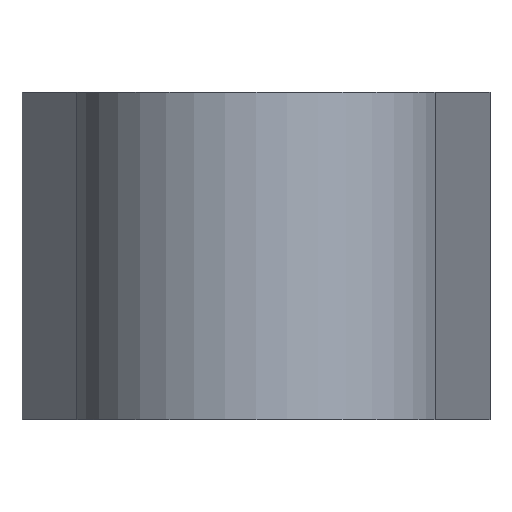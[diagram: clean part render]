
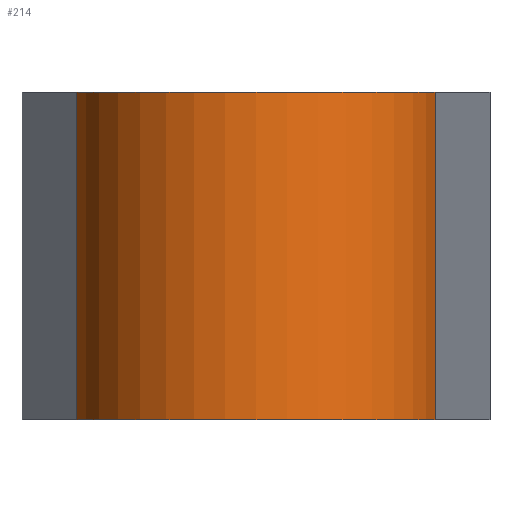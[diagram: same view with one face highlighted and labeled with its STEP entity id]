
A CAD part, left-side view. The second image highlights one B-rep face of the part: STEP entity #214.
In plain terms, the highlighted cylindrical face has radius 19.5 mm (diameter 39 mm), a partial arc.
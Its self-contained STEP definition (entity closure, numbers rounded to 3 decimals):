
#127=CYLINDRICAL_SURFACE('',#826,19.5);
#156=CIRCLE('',#824,19.5);
#157=CIRCLE('',#825,19.5);
#214=ADVANCED_FACE('',(#271),#127,.T.);
#271=FACE_OUTER_BOUND('',#305,.T.);
#305=EDGE_LOOP('',(#383,#384,#385,#386));
#383=ORIENTED_EDGE('',*,*,#644,.T.);
#384=ORIENTED_EDGE('',*,*,#645,.F.);
#385=ORIENTED_EDGE('',*,*,#641,.F.);
#386=ORIENTED_EDGE('',*,*,#646,.T.);
#571=VERTEX_POINT('',#1192);
#572=VERTEX_POINT('',#1193);
#573=VERTEX_POINT('',#1198);
#574=VERTEX_POINT('',#1199);
#641=EDGE_CURVE('',#571,#572,#737,.T.);
#644=EDGE_CURVE('',#573,#574,#740,.T.);
#645=EDGE_CURVE('',#572,#574,#156,.T.);
#646=EDGE_CURVE('',#571,#573,#157,.T.);
#737=LINE('',#1191,#781);
#740=LINE('',#1197,#784);
#781=VECTOR('',#945,1.);
#784=VECTOR('',#950,1.);
#824=AXIS2_PLACEMENT_3D('',#1200,#951,#952);
#825=AXIS2_PLACEMENT_3D('',#1201,#953,#954);
#826=AXIS2_PLACEMENT_3D('',#1202,#955,#956);
#945=DIRECTION('',(0.,0.,1.));
#950=DIRECTION('',(0.,0.,1.));
#951=DIRECTION('',(0.,0.,1.));
#952=DIRECTION('',(1.,0.,0.));
#953=DIRECTION('',(0.,0.,1.));
#954=DIRECTION('',(1.,0.,0.));
#955=DIRECTION('',(0.,0.,1.));
#956=DIRECTION('',(-1.,0.,0.));
#1191=CARTESIAN_POINT('',(-3.771,19.132,0.));
#1192=CARTESIAN_POINT('',(-3.771,19.132,0.));
#1193=CARTESIAN_POINT('',(-3.771,19.132,35.));
#1197=CARTESIAN_POINT('',(-3.771,-19.132,0.));
#1198=CARTESIAN_POINT('',(-3.771,-19.132,0.));
#1199=CARTESIAN_POINT('',(-3.771,-19.132,35.));
#1200=CARTESIAN_POINT('',(0.,0.,35.));
#1201=CARTESIAN_POINT('',(0.,0.,0.));
#1202=CARTESIAN_POINT('',(0.,0.,0.));
